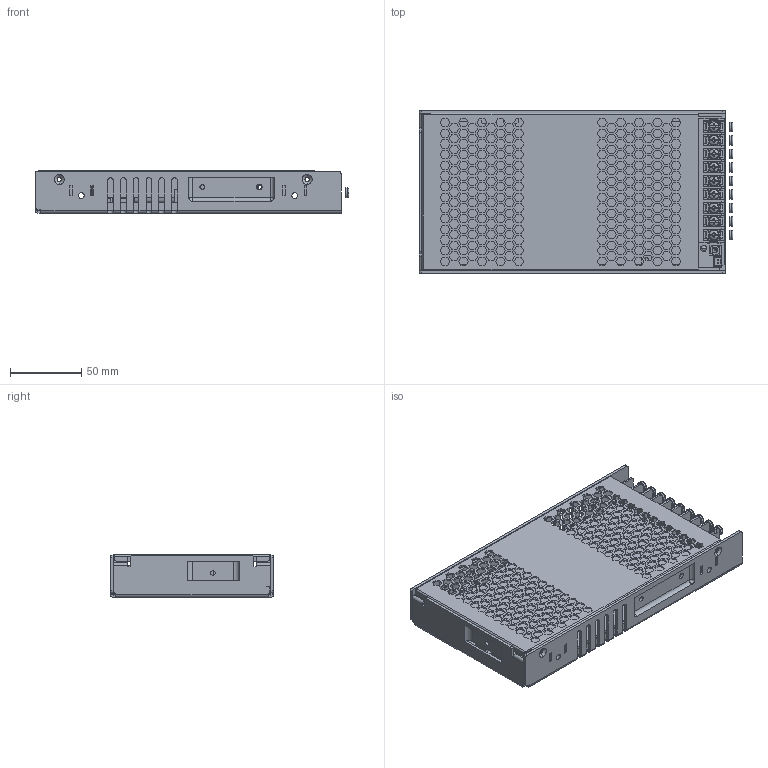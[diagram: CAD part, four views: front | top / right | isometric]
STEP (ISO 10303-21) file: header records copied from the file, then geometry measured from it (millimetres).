
FILE_DESCRIPTION((''),'2;1');
FILE_NAME('CASE_ASM_ASM','2014-08-18T',('ERIC.YP.CHEN'),(''),'PRO/ENGINEER BY PARAMETRIC TECHNOLOGY CORPORATION, 2010280','PRO/ENGINEER BY PARAMETRIC TECHNOLOGY CORPORATION, 2010280','');
FILE_SCHEMA(('CONFIG_CONTROL_DESIGN'));
Products named in the file (31): CHASSIS_170; CHASSIS-STANDOFF_4; CHASSIS-STANDOFF-1_4; CHASSIS_ASM_20_ASM; PWB_2_25_2013_56; INSULATOR_36; MANIFOLD_SOLID_BREP_77036; MANIFOLD_SOLID_BREP_77155; MANIFOLD_SOLID_BREP_77274; T44-ES1109A301-20121225_2_ASM; VR1__1; LEG1__1; VR_LEG__ASM_1_ASM; MANIFOLD_SOLID_BREP_80119; MANIFOLD_SOLID_BREP_80207; LED_HOLDER_1_ASM; HSK2_25; COVER-1_9; B2B-XH_1; 1_1; 3_1; 4_1; 5_1; 6_1; 7_1; 8_1; 9_1; 10_1; T14-EO3109A301_ASM_2_ASM; CASE_ASM_401_ASM; CASE_ASM_ASM
Assembly tree (35 placements, depth 4):
  CASE_ASM_ASM
    CASE_ASM_401_ASM
      CHASSIS_ASM_20_ASM
        CHASSIS_170
        CHASSIS-STANDOFF_4  x2
        CHASSIS-STANDOFF-1_4  x3
      PWB_2_25_2013_56
      INSULATOR_36
      T44-ES1109A301-20121225_2_ASM
        MANIFOLD_SOLID_BREP_77036
        MANIFOLD_SOLID_BREP_77155
        MANIFOLD_SOLID_BREP_77274
      VR_LEG__ASM_1_ASM
        VR1__1
        LEG1__1  x3
      LED_HOLDER_1_ASM
        MANIFOLD_SOLID_BREP_80119
        MANIFOLD_SOLID_BREP_80207
      HSK2_25
      COVER-1_9
      B2B-XH_1
      T14-EO3109A301_ASM_2_ASM
        1_1
        3_1
        4_1
        5_1
        6_1
        7_1
        8_1
        9_1
        10_1
Bounding box: 220.51 x 115 x 30 mm (x, y, z)
Volume: 151265.7 mm3; surface area: 232643.6 mm2
Topology: 29 solids, 29 shells, 4317 faces, 12229 edges, 7963 vertices
Faces by surface type: plane 3441, cylinder 556, torus 152, bspline 90, cone 50, sphere 28
Entity records: 144516 total; most frequent: CARTESIAN_POINT 35190, ORIENTED_EDGE 23700, DIRECTION 20720, EDGE_CURVE 11850, VECTOR 9302, LINE 9302, VERTEX_POINT 7751, AXIS2_PLACEMENT_3D 5709
